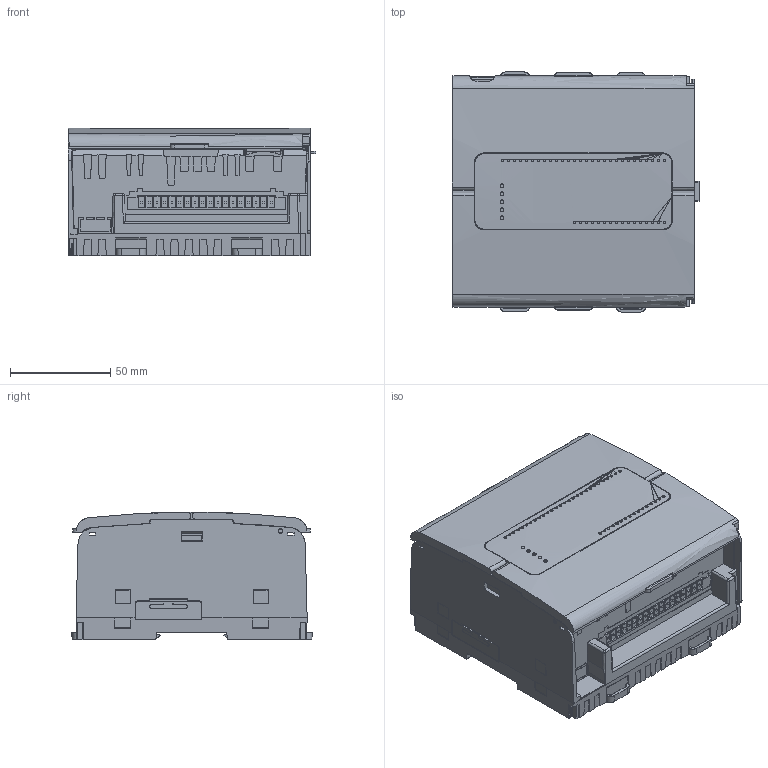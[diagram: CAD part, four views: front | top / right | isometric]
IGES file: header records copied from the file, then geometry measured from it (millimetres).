
Start section: SolidWorks IGES file using analytic representation for surfaces
Global section: file name: Z:\Products\UniStream PLC without HMI\PLC001\R&D\Design\Concept_06(Final)\CAD FILES\3D\PLC Without HMI.IGS; native system: SolidWorks 2017; preprocessor: SolidWorks 2017; author: laorb; date: 190122.163133; units: millimetre
Bounding box: 123.65 x 120 x 63.87 mm (x, y, z)
Surface area: 96064.6 mm2 (no closed solid volume)
Topology: 0 solids, 0 shells, 2796 faces, 23702 edges, 23664 vertices
Faces by surface type: bspline 2128, revolution 668
